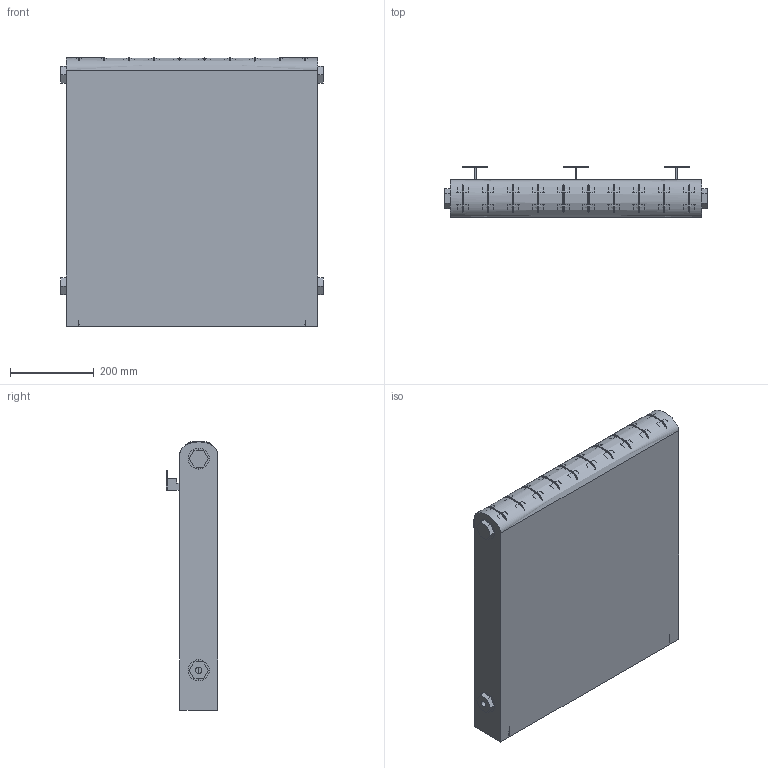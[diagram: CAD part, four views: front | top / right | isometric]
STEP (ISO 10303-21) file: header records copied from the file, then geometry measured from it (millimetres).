
FILE_DESCRIPTION(/* description */ (''),/* implementation_level */ '2;1');
FILE_NAME(/* name */ 'Ionic_2Column_FloorStanding',/* time_stamp */ '2026-08-04T19:16:12+03:00',/* author */ (''),/* organization */ (''),/* preprocessor_version */ 'ST-DEVELOPER v20',/* originating_system */ '',/* authorisation */ '');
FILE_SCHEMA (('AP242_MANAGED_MODEL_BASED_3D_ENGINEERING_MIM_LF { 1 0 10303 442 1 1 4 }'));
Length unit declared in the file: millimetre
Products named in the file (8): TopLevelAssembly; Выдавливание; MHS_Ionic_2Column; MHS_Ionic_2Column_1; MHS_Ionic_2Column_2; EndValve; EndValve_1; IonicBracket
Assembly tree (22 placements, depth 2):
  TopLevelAssembly
    Выдавливание
    MHS_Ionic_2Column
    MHS_Ionic_2Column_2  x10
    MHS_Ionic_2Column_1
    EndValve_1  x2
    EndValve  x2
    IonicBracket  x5
Bounding box: 626 x 122 x 640 mm (x, y, z)
Volume: 48317573.1 mm3; surface area: 2582507.7 mm2
Topology: 36 solids, 36 shells, 1743 faces, 3861 edges, 2286 vertices
Faces by surface type: cylinder 724, bspline 561, plane 458
Entity records: 18841 total; most frequent: CARTESIAN_POINT 4605, DIRECTION 3037, ORIENTED_EDGE 2742, EDGE_CURVE 1371, AXIS2_PLACEMENT_3D 1234, VERTEX_POINT 818, CIRCLE 800, EDGE_LOOP 629
